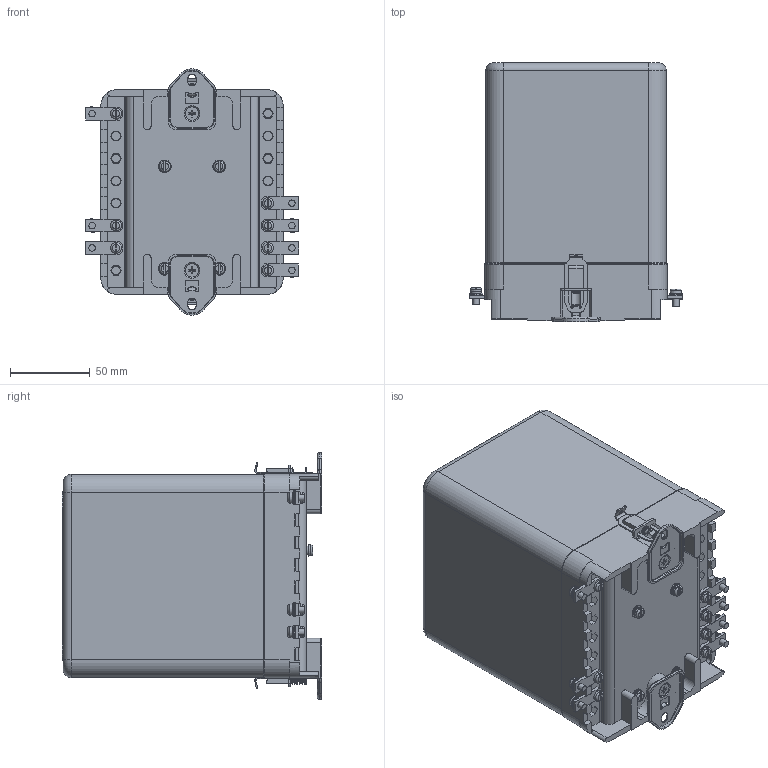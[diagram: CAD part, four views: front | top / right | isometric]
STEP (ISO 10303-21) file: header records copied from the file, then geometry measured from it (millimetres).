
FILE_DESCRIPTION(('STEP AP203'), '1');
FILE_NAME('ÐÍÍ 57 ï.ï.', '', ('UNSPECIFIED'), ('UNSPECIFIED'), 'ASCON STEP Converter 1.3', 'ASCON Math Kernel', '');
FILE_SCHEMA(('CONFIG_CONTROL_DESIGN'));
Length unit declared in the file: millimetre
Bounding box: 133.5 x 162.3 x 154 mm (x, y, z)
Volume: 314476 mm3; surface area: 210228.8 mm2
Topology: 3 solids, 3 shells, 1462 faces, 4022 edges, 2568 vertices
Faces by surface type: plane 877, cylinder 393, torus 146, cone 30, bspline 14, sphere 2
Full cylindrical faces by diameter (mm): 2 x2, 3.242 x6, 3.5 x2, 4 x33, 4.134 x2, 4.2 x7, 4.3 x7, 4.5 x4, 5.3 x2, 5.5 x20, 8 x4, 8.4 x2
Entity records: 69574 total; most frequent: CARTESIAN_POINT 20892, ORIENTED_EDGE 7690, DIRECTION 7559, EDGE_CURVE 3845, AXIS2_PLACEMENT_3D 2586, VERTEX_POINT 2562, LINE 2387, VECTOR 2387
